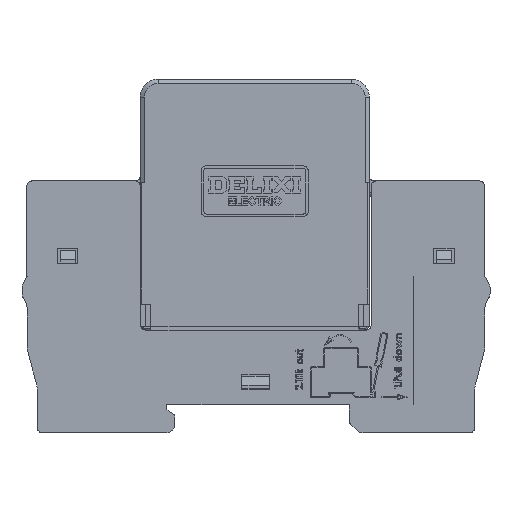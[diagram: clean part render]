
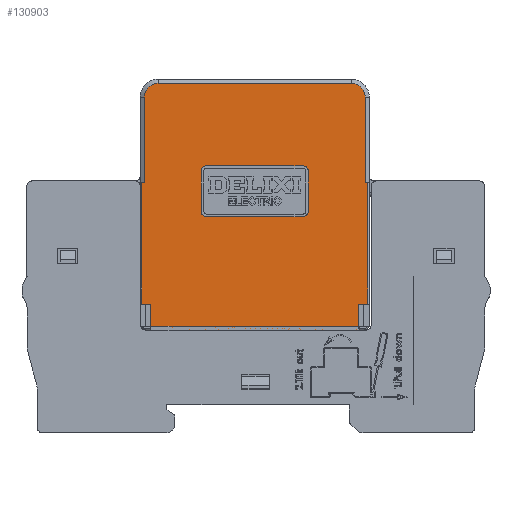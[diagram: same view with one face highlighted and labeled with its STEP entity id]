
A CAD part, front view. The second image highlights one B-rep face of the part: STEP entity #130903.
In plain terms, the highlighted planar face has unit normal (0, -1, 0).
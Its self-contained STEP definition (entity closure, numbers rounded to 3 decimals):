
#118675=DIRECTION('',(1.,0.,0.));
#118676=VECTOR('',#118675,0.5);
#118677=CARTESIAN_POINT('',(0.3,-17.9,29.));
#118678=LINE('',#118677,#118676);
#118679=CARTESIAN_POINT('',(3.5,-17.9,45.8));
#118680=DIRECTION('',(0.,1.,0.));
#118681=DIRECTION('',(-1.,0.,0.));
#118682=AXIS2_PLACEMENT_3D('',#118679,#118680,#118681);
#118684=CARTESIAN_POINT('',(41.5,-17.9,45.8));
#118685=DIRECTION('',(0.,1.,0.));
#118686=DIRECTION('',(0.,0.,1.));
#118687=AXIS2_PLACEMENT_3D('',#118684,#118685,#118686);
#118689=DIRECTION('',(-1.,0.,0.));
#118690=VECTOR('',#118689,1.8);
#118691=CARTESIAN_POINT('',(44.7,-17.9,5.1));
#118692=LINE('',#118691,#118690);
#118693=DIRECTION('',(0.,0.,1.));
#118694=VECTOR('',#118693,5.1);
#118695=CARTESIAN_POINT('',(2.1,-17.9,0.));
#118696=LINE('',#118695,#118694);
#118697=DIRECTION('',(0.,0.,-1.));
#118698=VECTOR('',#118697,8.);
#118699=CARTESIAN_POINT('',(12.,-17.9,31.3));
#118700=LINE('',#118699,#118698);
#118701=CARTESIAN_POINT('',(13.,-17.9,23.3));
#118702=DIRECTION('',(0.,-1.,0.));
#118703=DIRECTION('',(-1.,0.,0.));
#118704=AXIS2_PLACEMENT_3D('',#118701,#118702,#118703);
#118706=DIRECTION('',(1.,0.,0.));
#118707=VECTOR('',#118706,19.);
#118708=CARTESIAN_POINT('',(13.,-17.9,22.3));
#118709=LINE('',#118708,#118707);
#118710=CARTESIAN_POINT('',(32.,-17.9,23.3));
#118711=DIRECTION('',(0.,-1.,0.));
#118712=DIRECTION('',(0.,0.,-1.));
#118713=AXIS2_PLACEMENT_3D('',#118710,#118711,#118712);
#118715=CARTESIAN_POINT('',(32.,-17.9,31.3));
#118716=DIRECTION('',(0.,-1.,0.));
#118717=DIRECTION('',(1.,0.,0.));
#118718=AXIS2_PLACEMENT_3D('',#118715,#118716,#118717);
#118720=CARTESIAN_POINT('',(13.,-17.9,31.3));
#118721=DIRECTION('',(0.,-1.,0.));
#118722=DIRECTION('',(0.,0.,1.));
#118723=AXIS2_PLACEMENT_3D('',#118720,#118721,#118722);
#124236=DIRECTION('',(0.,0.,1.));
#124237=VECTOR('',#124236,16.8);
#124238=CARTESIAN_POINT('',(44.2,-17.9,29.));
#124239=LINE('',#124238,#124237);
#124244=DIRECTION('',(-1.,0.,0.));
#124245=VECTOR('',#124244,0.5);
#124246=CARTESIAN_POINT('',(44.7,-17.9,29.));
#124247=LINE('',#124246,#124245);
#124257=DIRECTION('',(0.,0.,1.));
#124258=VECTOR('',#124257,23.9);
#124259=CARTESIAN_POINT('',(44.7,-17.9,5.1));
#124260=LINE('',#124259,#124258);
#124286=DIRECTION('',(1.,0.,0.));
#124287=VECTOR('',#124286,40.8);
#124288=CARTESIAN_POINT('',(2.1,-17.9,0.));
#124289=LINE('',#124288,#124287);
#124310=DIRECTION('',(1.,0.,0.));
#124311=VECTOR('',#124310,1.8);
#124312=CARTESIAN_POINT('',(0.3,-17.9,5.1));
#124313=LINE('',#124312,#124311);
#124351=DIRECTION('',(0.,0.,-1.));
#124352=VECTOR('',#124351,23.9);
#124353=CARTESIAN_POINT('',(0.3,-17.9,29.));
#124354=LINE('',#124353,#124352);
#124355=DIRECTION('',(0.,0.,1.));
#124356=VECTOR('',#124355,5.1);
#124357=CARTESIAN_POINT('',(42.9,-17.9,0.));
#124358=LINE('',#124357,#124356);
#124371=DIRECTION('',(-1.,0.,0.));
#124372=VECTOR('',#124371,38.);
#124373=CARTESIAN_POINT('',(41.5,-17.9,48.5));
#124374=LINE('',#124373,#124372);
#124396=DIRECTION('',(0.,0.,-1.));
#124397=VECTOR('',#124396,16.8);
#124398=CARTESIAN_POINT('',(0.8,-17.9,45.8));
#124399=LINE('',#124398,#124397);
#125104=DIRECTION('',(1.,0.,0.));
#125105=VECTOR('',#125104,19.);
#125106=CARTESIAN_POINT('',(13.,-17.9,32.3));
#125107=LINE('',#125106,#125105);
#125116=DIRECTION('',(0.,0.,-1.));
#125117=VECTOR('',#125116,8.);
#125118=CARTESIAN_POINT('',(33.,-17.9,31.3));
#125119=LINE('',#125118,#125117);
#127902=CARTESIAN_POINT('',(0.3,-17.9,29.));
#127903=CARTESIAN_POINT('',(0.8,-17.9,29.));
#127904=VERTEX_POINT('',#127902);
#127905=VERTEX_POINT('',#127903);
#127906=CARTESIAN_POINT('',(0.8,-17.9,45.8));
#127907=VERTEX_POINT('',#127906);
#127908=CARTESIAN_POINT('',(3.5,-17.9,48.5));
#127909=VERTEX_POINT('',#127908);
#127910=CARTESIAN_POINT('',(41.5,-17.9,48.5));
#127911=VERTEX_POINT('',#127910);
#127912=CARTESIAN_POINT('',(44.2,-17.9,45.8));
#127913=VERTEX_POINT('',#127912);
#127914=CARTESIAN_POINT('',(44.2,-17.9,29.));
#127915=VERTEX_POINT('',#127914);
#127916=CARTESIAN_POINT('',(44.7,-17.9,29.));
#127917=VERTEX_POINT('',#127916);
#127918=CARTESIAN_POINT('',(44.7,-17.9,5.1));
#127919=VERTEX_POINT('',#127918);
#127920=CARTESIAN_POINT('',(42.9,-17.9,5.1));
#127921=VERTEX_POINT('',#127920);
#127922=CARTESIAN_POINT('',(42.9,-17.9,0.));
#127923=VERTEX_POINT('',#127922);
#127924=CARTESIAN_POINT('',(2.1,-17.9,0.));
#127925=VERTEX_POINT('',#127924);
#127926=CARTESIAN_POINT('',(2.1,-17.9,5.1));
#127927=VERTEX_POINT('',#127926);
#127928=CARTESIAN_POINT('',(0.3,-17.9,5.1));
#127929=VERTEX_POINT('',#127928);
#127930=CARTESIAN_POINT('',(12.,-17.9,31.3));
#127931=CARTESIAN_POINT('',(12.,-17.9,23.3));
#127932=VERTEX_POINT('',#127930);
#127933=VERTEX_POINT('',#127931);
#127934=CARTESIAN_POINT('',(13.,-17.9,22.3));
#127935=VERTEX_POINT('',#127934);
#127936=CARTESIAN_POINT('',(32.,-17.9,22.3));
#127937=VERTEX_POINT('',#127936);
#127938=CARTESIAN_POINT('',(33.,-17.9,23.3));
#127939=VERTEX_POINT('',#127938);
#127940=CARTESIAN_POINT('',(33.,-17.9,31.3));
#127941=VERTEX_POINT('',#127940);
#127942=CARTESIAN_POINT('',(32.,-17.9,32.3));
#127943=VERTEX_POINT('',#127942);
#127944=CARTESIAN_POINT('',(13.,-17.9,32.3));
#127945=VERTEX_POINT('',#127944);
#130850=CARTESIAN_POINT('',(0.,-17.9,0.));
#130851=DIRECTION('',(0.,-1.,0.));
#130852=DIRECTION('',(0.,0.,-1.));
#130853=AXIS2_PLACEMENT_3D('',#130850,#130851,#130852);
#130854=PLANE('',#130853);
#130856=ORIENTED_EDGE('',*,*,#130855,.T.);
#130858=ORIENTED_EDGE('',*,*,#130857,.F.);
#130860=ORIENTED_EDGE('',*,*,#130859,.T.);
#130862=ORIENTED_EDGE('',*,*,#130861,.F.);
#130864=ORIENTED_EDGE('',*,*,#130863,.T.);
#130866=ORIENTED_EDGE('',*,*,#130865,.F.);
#130868=ORIENTED_EDGE('',*,*,#130867,.F.);
#130870=ORIENTED_EDGE('',*,*,#130869,.F.);
#130872=ORIENTED_EDGE('',*,*,#130871,.T.);
#130874=ORIENTED_EDGE('',*,*,#130873,.F.);
#130876=ORIENTED_EDGE('',*,*,#130875,.F.);
#130878=ORIENTED_EDGE('',*,*,#130877,.T.);
#130880=ORIENTED_EDGE('',*,*,#130879,.F.);
#130882=ORIENTED_EDGE('',*,*,#130881,.F.);
#130883=EDGE_LOOP('',(#130856,#130858,#130860,#130862,#130864,#130866,#130868,
#130870,#130872,#130874,#130876,#130878,#130880,#130882));
#130884=FACE_OUTER_BOUND('',#130883,.F.);
#130886=ORIENTED_EDGE('',*,*,#130885,.T.);
#130888=ORIENTED_EDGE('',*,*,#130887,.T.);
#130890=ORIENTED_EDGE('',*,*,#130889,.T.);
#130892=ORIENTED_EDGE('',*,*,#130891,.T.);
#130894=ORIENTED_EDGE('',*,*,#130893,.F.);
#130896=ORIENTED_EDGE('',*,*,#130895,.T.);
#130898=ORIENTED_EDGE('',*,*,#130897,.F.);
#130900=ORIENTED_EDGE('',*,*,#130899,.T.);
#130901=EDGE_LOOP('',(#130886,#130888,#130890,#130892,#130894,#130896,#130898,
#130900));
#130902=FACE_BOUND('',#130901,.F.);
#130903=ADVANCED_FACE('',(#130884,#130902),#130854,.T.);
#118683=CIRCLE('',#118682,2.7);
#118688=CIRCLE('',#118687,2.7);
#118705=CIRCLE('',#118704,1.);
#118714=CIRCLE('',#118713,1.);
#118719=CIRCLE('',#118718,1.);
#118724=CIRCLE('',#118723,1.);
#130855=EDGE_CURVE('',#127904,#127905,#118678,.T.);
#130857=EDGE_CURVE('',#127907,#127905,#124399,.T.);
#130859=EDGE_CURVE('',#127907,#127909,#118683,.T.);
#130861=EDGE_CURVE('',#127911,#127909,#124374,.T.);
#130863=EDGE_CURVE('',#127911,#127913,#118688,.T.);
#130865=EDGE_CURVE('',#127915,#127913,#124239,.T.);
#130867=EDGE_CURVE('',#127917,#127915,#124247,.T.);
#130869=EDGE_CURVE('',#127919,#127917,#124260,.T.);
#130871=EDGE_CURVE('',#127919,#127921,#118692,.T.);
#130873=EDGE_CURVE('',#127923,#127921,#124358,.T.);
#130875=EDGE_CURVE('',#127925,#127923,#124289,.T.);
#130877=EDGE_CURVE('',#127925,#127927,#118696,.T.);
#130879=EDGE_CURVE('',#127929,#127927,#124313,.T.);
#130881=EDGE_CURVE('',#127904,#127929,#124354,.T.);
#130885=EDGE_CURVE('',#127932,#127933,#118700,.T.);
#130887=EDGE_CURVE('',#127933,#127935,#118705,.T.);
#130889=EDGE_CURVE('',#127935,#127937,#118709,.T.);
#130891=EDGE_CURVE('',#127937,#127939,#118714,.T.);
#130893=EDGE_CURVE('',#127941,#127939,#125119,.T.);
#130895=EDGE_CURVE('',#127941,#127943,#118719,.T.);
#130897=EDGE_CURVE('',#127945,#127943,#125107,.T.);
#130899=EDGE_CURVE('',#127945,#127932,#118724,.T.);
